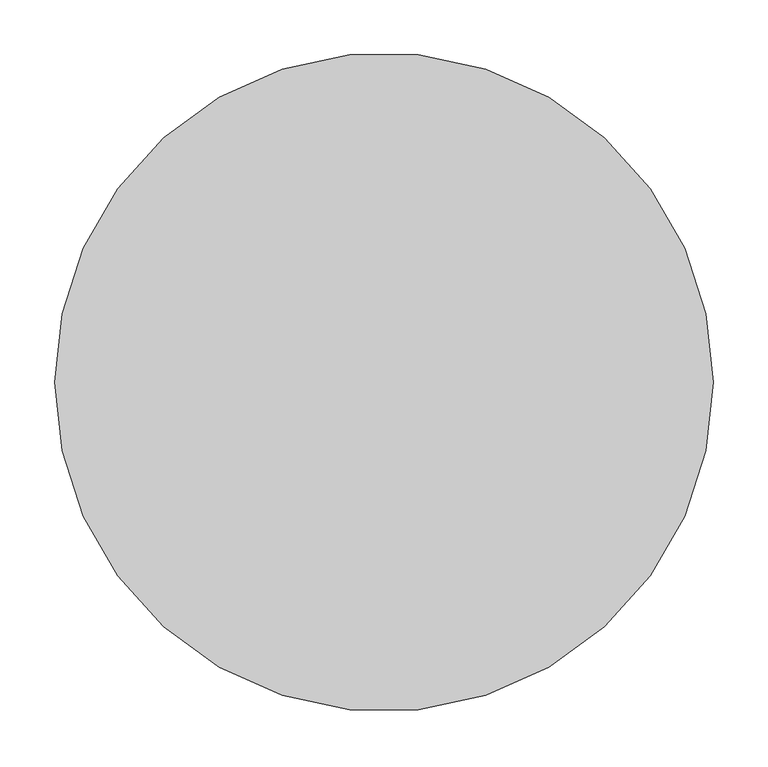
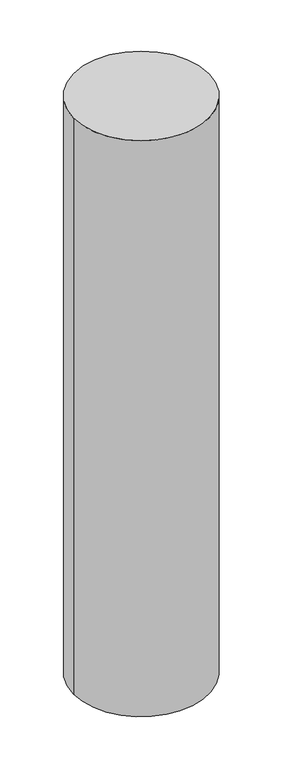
"""IFC4 building model written with IfcOpenShell, lengths in millimetres: column geometry, ADSK_КолоннаЖБ_Круглая : D600 мм."""

from ifc_helpers import new_model, si_unit, point, origin, origin_with_axes, origin_2d, place, context, project, spatial, circle_curve, trimmed, segment, composite_curve, outline, extrude, source, transform, mapped, element, save


def column_0de62f57(model_context):
    return source(origin(), model_context, "Body", "SweptSolid", [
        extrude(outline(composite_curve([segment(trimmed(circle_curve(origin_2d(), 300.0), [point((-300.0, 0.0))], [point((300.0, 0.0))], False, "CARTESIAN"), True, "CONTINUOUS"), segment(trimmed(circle_curve(origin_2d(), 300.0), [point((300.0, 0.0))], [point((-300.0, 0.0))], False, "CARTESIAN"), True, "CONTINUOUS")], self_intersect=False)), origin_with_axes(), (0.0, 0.0, 1.0), 2700.0),
    ])


if __name__ == "__main__":
    model = new_model("IFC4")
    model_context = context("Model", 3, world=origin())
    ifc_project = project(units=[si_unit("LENGTHUNIT", "METRE", prefix="MILLI")], contexts=[model_context])
    site = spatial("IfcSite", under=ifc_project)
    building = spatial("IfcBuilding", under=site)
    placement = place(None, origin())
    column_shape = column_0de62f57(model_context)
    element("IfcColumn", 1, ObjectType="ADSK_КолоннаЖБ_Круглая : D600 мм", at=placement, inside=building, context=model_context, shape_type="MappedRepresentation", body=[
        mapped(column_shape, transform((0.0, 0.0, 0.0), x_axis=(1.0, 0.0, 0.0), y_axis=(0.0, 1.0, 0.0), z_axis=(0.0, 0.0, 1.0))),
    ])
    save(model, "model.ifc")
